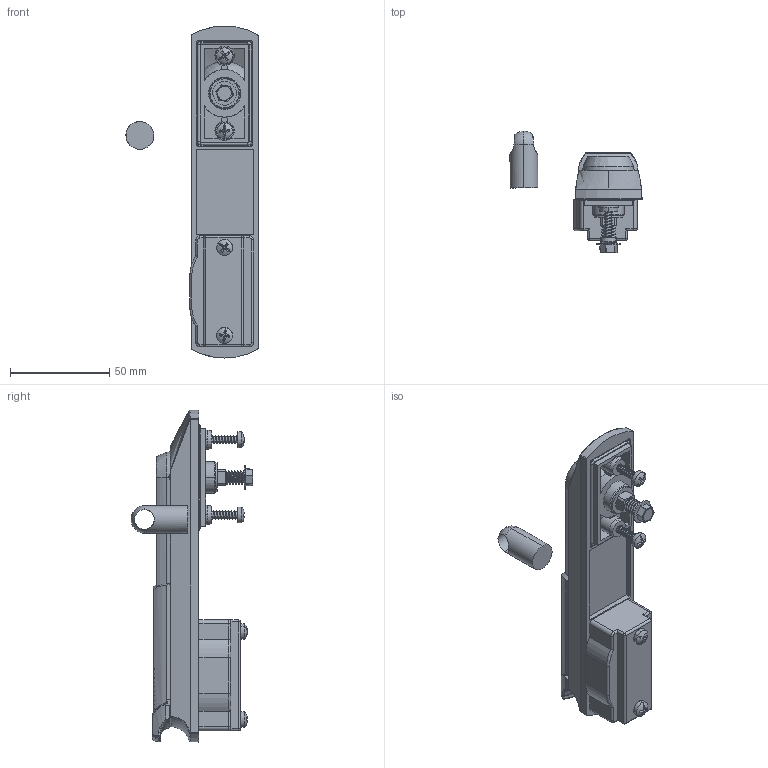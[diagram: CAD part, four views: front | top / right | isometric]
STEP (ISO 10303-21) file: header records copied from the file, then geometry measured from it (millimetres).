
FILE_DESCRIPTION (( 'STEP AP214' ), '1' );
FILE_NAME ('1B.RS710.00.00.00.STEP', '2010-11-05T12:16:23', ( '£ukasz Cieæka' ), ( '' ), 'SwSTEP 2.0', 'SolidWorks 2010', '' );
FILE_SCHEMA (( 'AUTOMOTIVE_DESIGN' ));
Length unit declared in the file: millimetre
Products named in the file (14): 1B.RS100.01.03.00; 1B.RS100.01.04.00; 1B.RS700.01.02.00; Sworzeñ; 1B.RS300.01.05.00; 1B.RS710.00.00.00; 1B.RS710.01.01.00; 1B.RS300.02.02.00; 1B.RS700.01.07.00; 1B.RS710.02.01.00; O-RING 12x2; O-RING 42 x 1,5; Wkrêt 4,1 x 23; M6 x 22
Assembly tree (17 placements, depth 2):
  1B.RS710.00.00.00
    Wkrêt 4,1 x 23  x4
    Sworzeñ
    O-RING 42 x 1,5  x2
    1B.RS300.02.02.00
    M6 x 22
    1B.RS300.01.05.00
    1B.RS700.01.07.00
    1B.RS700.01.02.00
    1B.RS100.01.04.00
    1B.RS710.01.01.00
    O-RING 12x2
    1B.RS100.01.03.00
    1B.RS710.02.01.00
Bounding box: 66.68 x 61.55 x 167.64 mm (x, y, z)
Volume: 55733.2 mm3; surface area: 63570.2 mm2
Topology: 16 solids, 18 shells, 1038 faces, 2705 edges, 1686 vertices
Faces by surface type: cylinder 410, plane 339, bspline 146, cone 62, sphere 41, torus 40
Entity records: 39733 total; most frequent: CARTESIAN_POINT 20378, ORIENTED_EDGE 4154, DIRECTION 3385, EDGE_CURVE 2077, VERTEX_POINT 1305, AXIS2_PLACEMENT_3D 1275, EDGE_LOOP 850, VECTOR 835
